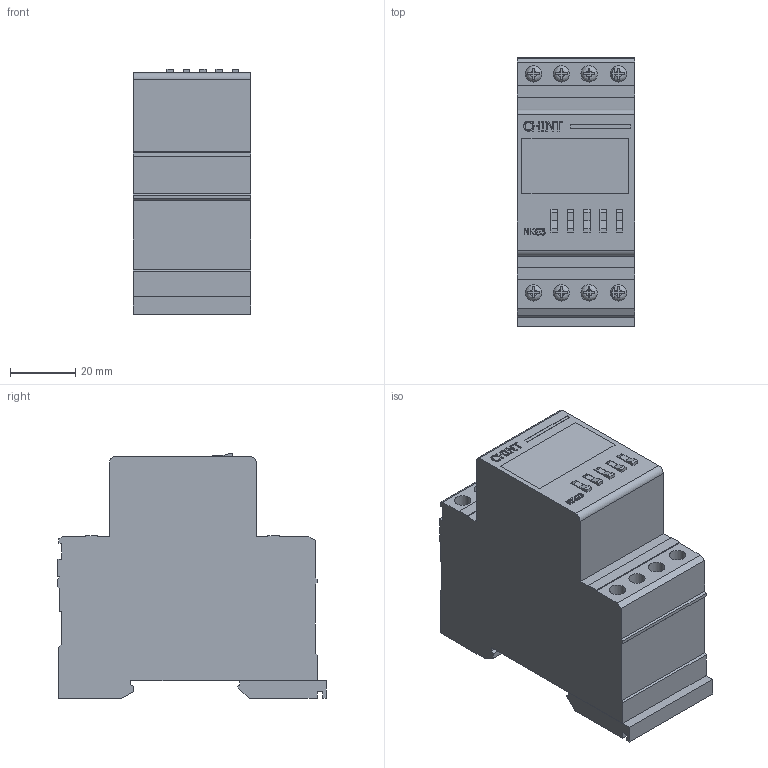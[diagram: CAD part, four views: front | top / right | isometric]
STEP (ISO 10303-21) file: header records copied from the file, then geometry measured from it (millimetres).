
FILE_DESCRIPTION(/* description */ (''),/* implementation_level */ '2;1');
FILE_NAME(/* name */ 'D:\CHINT\NKG3\Таймер электр NKG1 (CHINT).stp',/* time_stamp */ '2017-09-30T15:44:31+04:00',/* author */ ('RSagdiev'),/* organization */ (''),/* preprocessor_version */ 'ST-DEVELOPER v16.5',/* originating_system */ 'Autodesk Inventor 2017',/* authorisation */ '');
FILE_SCHEMA (('AUTOMOTIVE_DESIGN { 1 0 10303 214 3 1 1 }'));
Length unit declared in the file: millimetre
Products named in the file (1): Таймер \X2\044D043B0435043A0442
0440\X0\ NKG1 (CHINT)
Bounding box: 36 x 82.35 x 75.09 mm (x, y, z)
Volume: 172803.8 mm3; surface area: 26417.1 mm2
Topology: 16 solids, 16 shells, 599 faces, 1618 edges, 1086 vertices
Faces by surface type: plane 457, bspline 124, cylinder 18
Full cylindrical faces by diameter (mm): 5 x16
Entity records: 19838 total; most frequent: CARTESIAN_POINT 5482, ORIENTED_EDGE 3192, DIRECTION 2471, EDGE_CURVE 1596, LINE 1157, VECTOR 1157, VERTEX_POINT 1076, AXIS2_PLACEMENT_3D 657
